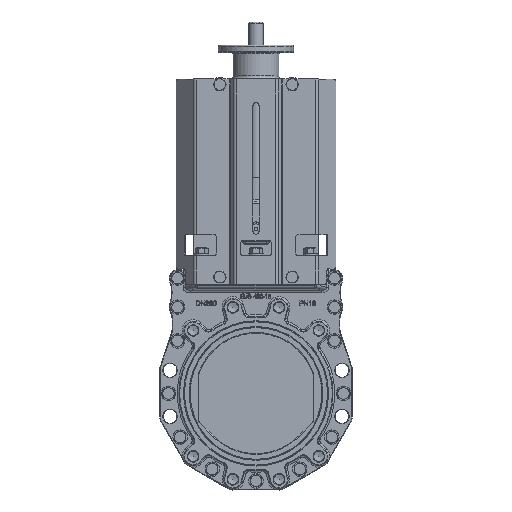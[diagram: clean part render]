
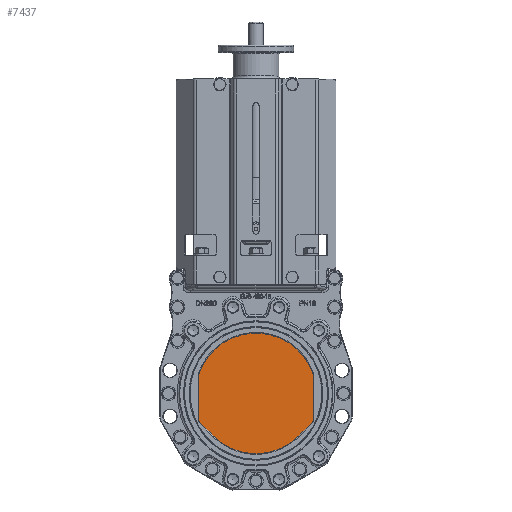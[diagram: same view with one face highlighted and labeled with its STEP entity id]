
A CAD part, top view. The second image highlights one B-rep face of the part: STEP entity #7437.
In plain terms, the highlighted planar face has unit normal (0, 0, 1).
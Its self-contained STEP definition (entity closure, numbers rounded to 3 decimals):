
#5127=FACE_OUTER_BOUND('',#18181,.T.);
#7437=ADVANCED_FACE('',(#5127),#9442,.T.);
#9442=PLANE('',#46705);
#11273=LINE('',#68891,#13914);
#11277=LINE('',#68903,#13918);
#11281=LINE('',#68915,#13922);
#11285=LINE('',#68927,#13926);
#13914=VECTOR('',#53236,1.);
#13918=VECTOR('',#53248,1.);
#13922=VECTOR('',#53260,1.);
#13926=VECTOR('',#53272,1.);
#18181=EDGE_LOOP('',(#26009,#26010,#26011,#26012,#26013,#26014,#26015,#26016,
#26017,#26018));
#26009=ORIENTED_EDGE('',*,*,#39309,.F.);
#26010=ORIENTED_EDGE('',*,*,#39334,.F.);
#26011=ORIENTED_EDGE('',*,*,#39332,.F.);
#26012=ORIENTED_EDGE('',*,*,#39329,.F.);
#26013=ORIENTED_EDGE('',*,*,#39326,.F.);
#26014=ORIENTED_EDGE('',*,*,#39323,.F.);
#26015=ORIENTED_EDGE('',*,*,#39320,.F.);
#26016=ORIENTED_EDGE('',*,*,#39317,.F.);
#26017=ORIENTED_EDGE('',*,*,#39314,.F.);
#26018=ORIENTED_EDGE('',*,*,#39311,.F.);
#34553=VERTEX_POINT('',#68886);
#34554=VERTEX_POINT('',#68888);
#34555=VERTEX_POINT('',#68892);
#34557=VERTEX_POINT('',#68898);
#34559=VERTEX_POINT('',#68904);
#34561=VERTEX_POINT('',#68910);
#34563=VERTEX_POINT('',#68916);
#34565=VERTEX_POINT('',#68922);
#34567=VERTEX_POINT('',#68928);
#34568=VERTEX_POINT('',#68933);
#39309=EDGE_CURVE('',#34553,#34554,#43857,.T.);
#39311=EDGE_CURVE('',#34554,#34555,#11273,.T.);
#39314=EDGE_CURVE('',#34555,#34557,#43858,.T.);
#39317=EDGE_CURVE('',#34557,#34559,#11277,.T.);
#39320=EDGE_CURVE('',#34559,#34561,#43860,.T.);
#39323=EDGE_CURVE('',#34561,#34563,#11281,.T.);
#39326=EDGE_CURVE('',#34563,#34565,#43862,.T.);
#39329=EDGE_CURVE('',#34565,#34567,#11285,.T.);
#39332=EDGE_CURVE('',#34567,#34568,#43864,.T.);
#39334=EDGE_CURVE('',#34568,#34553,#43865,.T.);
#43857=CIRCLE('',#46403,10.);
#43858=CIRCLE('',#46406,10.);
#43860=CIRCLE('',#46410,100.);
#43862=CIRCLE('',#46414,10.);
#43864=CIRCLE('',#46418,10.);
#43865=CIRCLE('',#46420,100.);
#46403=AXIS2_PLACEMENT_3D('',#68887,#53231,#53232);
#46406=AXIS2_PLACEMENT_3D('',#68897,#53241,#53242);
#46410=AXIS2_PLACEMENT_3D('',#68909,#53253,#53254);
#46414=AXIS2_PLACEMENT_3D('',#68921,#53265,#53266);
#46418=AXIS2_PLACEMENT_3D('',#68932,#53277,#53278);
#46420=AXIS2_PLACEMENT_3D('',#68936,#53282,#53283);
#46705=AXIS2_PLACEMENT_3D('',#71862,#54194,#54195);
#53231=DIRECTION('',(0.,0.,-1.));
#53232=DIRECTION('',(1.,0.,0.));
#53236=DIRECTION('',(0.,-1.,0.));
#53241=DIRECTION('',(0.,0.,-1.));
#53242=DIRECTION('',(1.,0.,0.));
#53248=DIRECTION('',(-0.707,-0.707,0.));
#53253=DIRECTION('',(0.,0.,-1.));
#53254=DIRECTION('',(1.,0.,0.));
#53260=DIRECTION('',(-0.707,0.707,0.));
#53265=DIRECTION('',(0.,0.,-1.));
#53266=DIRECTION('',(1.,0.,0.));
#53272=DIRECTION('',(0.,1.,0.));
#53277=DIRECTION('',(0.,0.,-1.));
#53278=DIRECTION('',(1.,0.,0.));
#53282=DIRECTION('',(0.,0.,-1.));
#53283=DIRECTION('',(1.,0.,0.));
#54194=DIRECTION('',(0.,0.,1.));
#54195=DIRECTION('',(1.,0.,0.));
#68886=CARTESIAN_POINT('',(94.444,32.867,4.));
#68887=CARTESIAN_POINT('',(85.,29.58,4.));
#68888=CARTESIAN_POINT('',(95.,29.58,4.));
#68891=CARTESIAN_POINT('',(95.,-46.421,4.));
#68892=CARTESIAN_POINT('',(95.,-42.279,4.));
#68897=CARTESIAN_POINT('',(85.,-42.279,4.));
#68898=CARTESIAN_POINT('',(92.071,-49.35,4.));
#68903=CARTESIAN_POINT('',(70.711,-70.711,4.));
#68904=CARTESIAN_POINT('',(70.711,-70.711,4.));
#68909=CARTESIAN_POINT('',(0.,0.,4.));
#68910=CARTESIAN_POINT('',(-70.711,-70.711,4.));
#68915=CARTESIAN_POINT('',(-95.,-46.421,4.));
#68916=CARTESIAN_POINT('',(-92.071,-49.35,4.));
#68921=CARTESIAN_POINT('',(-85.,-42.279,4.));
#68922=CARTESIAN_POINT('',(-95.,-42.279,4.));
#68927=CARTESIAN_POINT('',(-95.,31.225,4.));
#68928=CARTESIAN_POINT('',(-95.,29.58,4.));
#68932=CARTESIAN_POINT('',(-85.,29.58,4.));
#68933=CARTESIAN_POINT('',(-94.444,32.867,4.));
#68936=CARTESIAN_POINT('',(0.,0.,4.));
#71862=CARTESIAN_POINT('',(0.,109.489,4.));
